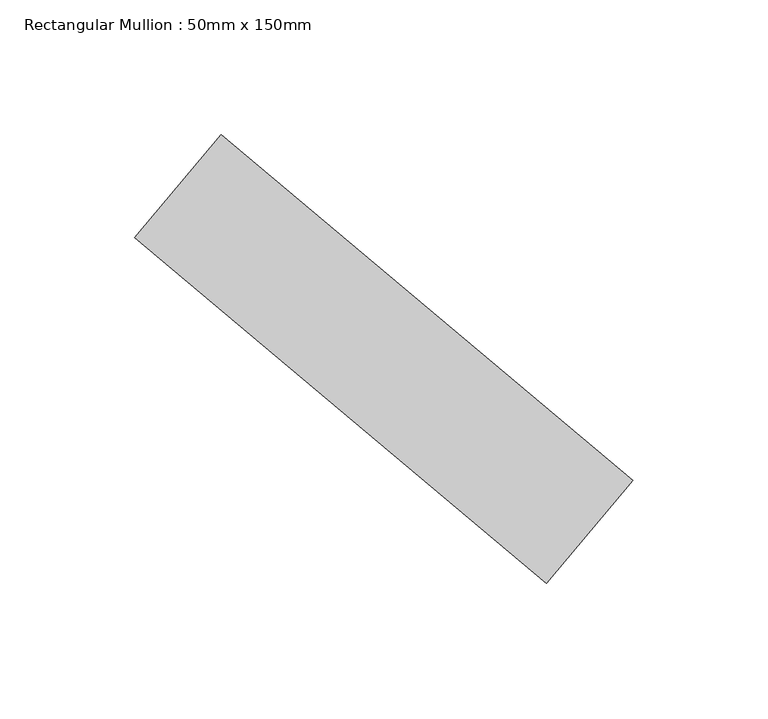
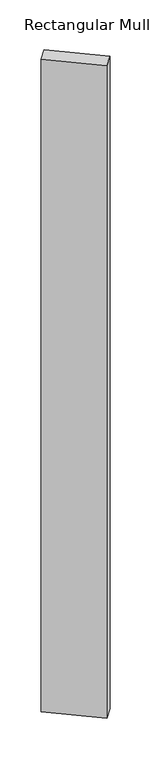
"""IFC4 building model written with IfcOpenShell, lengths in millimetres: member geometry, Rectangular Mullion : 50mm x 150mm."""

import ifcopenshell
import ifcopenshell.guid

model = None  # the IFC model being written
_history = None  # IfcOwnerHistory: only IFC2X3 demands one
_inside = {}  # id of a spatial element -> (the spatial element, [elements in it])
_under = {}  # id of a project, library or spatial element -> (it, [spatial elements below it])
_declared = {}  # id of a project -> (the project, [libraries it declares])
_typed = {}  # id of a type object -> (the type object, [elements of that type])
_made_of = {}  # id of a material, layer set ... -> (it, [elements and type objects made of it])


def new_model(schema):
    """Start an empty IFC model of exactly this schema.

    Asked for "IFC4X3", IfcOpenShell would pick the latest addendum, in which some entities
    have other attributes; the version numbers below select the first issue.
    IFC2X3 requires an IfcOwnerHistory on every rooted entity: one is made here for all.
    """
    global model, _history
    if schema == "IFC4X3":
        model = ifcopenshell.file(schema_version=(4, 3, 0, 0))
    else:
        model = ifcopenshell.file(schema=schema)
    _inside.clear()
    _under.clear()
    _declared.clear()
    _typed.clear()
    _made_of.clear()
    _history = None
    if model.schema == "IFC2X3":
        org = make("IfcOrganization", Name="unknown")
        user = make(
            "IfcPersonAndOrganization",
            ThePerson=make("IfcPerson", FamilyName="unknown"),
            TheOrganization=org,
        )
        app = make(
            "IfcApplication",
            ApplicationDeveloper=org,
            Version="unknown",
            ApplicationFullName="unknown",
            ApplicationIdentifier="unknown",
        )
        _history = make(
            "IfcOwnerHistory",
            OwningUser=user,
            OwningApplication=app,
            ChangeAction="ADDED",
            CreationDate=0,
        )
    return model


def make(cls, **values):
    """One entity of the class cls with the attributes given. An attribute that is None is left unset."""
    return model.create_entity(
        cls, **{name: value for name, value in values.items() if value is not None}
    )


def rooted(cls, **values):
    """An entity with a GlobalId (a new one), such as an element, a storey or a relation."""
    return make(cls, GlobalId=ifcopenshell.guid.new(), OwnerHistory=_history, **values)


def si_unit(unit_type, name, prefix=None):
    """IfcSIUnit, for example si_unit("LENGTHUNIT", "METRE", prefix="MILLI")."""
    return make("IfcSIUnit", UnitType=unit_type, Prefix=prefix, Name=name)


def assignment(units):
    """IfcUnitAssignment: the units of a project."""
    return None if units is None else make("IfcUnitAssignment", Units=units)


def point(xyz):
    """IfcCartesianPoint."""
    return None if xyz is None else make("IfcCartesianPoint", Coordinates=xyz)


def direction(xyz):
    """IfcDirection."""
    return None if xyz is None else make("IfcDirection", DirectionRatios=xyz)


def frame(location, z_axis=None, x_axis=None):
    """IfcAxis2Placement3D, a coordinate frame: its origin and axes. An axis left out is left unset."""
    return make(
        "IfcAxis2Placement3D",
        Location=point(location),
        Axis=direction(z_axis),
        RefDirection=direction(x_axis),
    )


def origin():
    """The frame at (0, 0, 0) with its axes left unset."""
    return frame((0.0, 0.0, 0.0))


def place(relative_to, where):
    """IfcLocalPlacement: puts the frame where relative to a parent placement (None: the world)."""
    return make(
        "IfcLocalPlacement", PlacementRelTo=relative_to, RelativePlacement=where
    )


def context(
    kind, dimensions, precision=None, world=None, true_north=None, identifier=None
):
    """IfcGeometricRepresentationContext, for example the 3D "Model" context."""
    return make(
        "IfcGeometricRepresentationContext",
        ContextIdentifier=identifier,
        ContextType=kind,
        CoordinateSpaceDimension=dimensions,
        Precision=precision,
        WorldCoordinateSystem=world,
        TrueNorth=true_north,
    )


def project(units=None, contexts=None):
    """IfcProject with its units and contexts."""
    return rooted(
        "IfcProject",
        Name="project",
        RepresentationContexts=contexts,
        UnitsInContext=assignment(units),
    )


def spatial(cls, under=None, at=None, **own):
    """A site, building, storey or space (cls), placed at a placement, below another one or the project."""
    s = rooted(cls, ObjectPlacement=at, **own)
    if under is not None:
        _under.setdefault(under.id(), (under, []))[1].append(s)
    return s


def polyline(points):
    """IfcPolyline through the points."""
    return make("IfcPolyline", Points=[point(p) for p in points])


def outline(outer, holes=None, kind="AREA"):
    """IfcArbitraryClosedProfileDef: a profile drawn as a closed curve; with holes, ...WithVoids."""
    if holes is None:
        return make("IfcArbitraryClosedProfileDef", ProfileType=kind, OuterCurve=outer)
    return make(
        "IfcArbitraryProfileDefWithVoids",
        ProfileType=kind,
        OuterCurve=outer,
        InnerCurves=holes,
    )


def extrude(swept, where, along, depth):
    """IfcExtrudedAreaSolid: the profile swept, set in the frame where, extruded along a direction by depth."""
    return make(
        "IfcExtrudedAreaSolid",
        SweptArea=swept,
        Position=where,
        ExtrudedDirection=direction(along),
        Depth=depth,
    )


def shape(context_of_items, identifier, shape_type, items):
    """IfcShapeRepresentation: the items that make up one representation, for example the "Body"."""
    return make(
        "IfcShapeRepresentation",
        ContextOfItems=context_of_items,
        RepresentationIdentifier=identifier,
        RepresentationType=shape_type,
        Items=items,
    )


def source(mapping_origin, context_of_items, identifier, shape_type, items):
    """IfcRepresentationMap: a shape defined once, which mapped items show again and again."""
    return make(
        "IfcRepresentationMap",
        MappingOrigin=mapping_origin,
        MappedRepresentation=shape(context_of_items, identifier, shape_type, items),
    )


def transform(
    local_origin,
    x_axis=None,
    y_axis=None,
    z_axis=None,
    scale=None,
    scale2=None,
    scale3=None,
    uniform=True,
):
    """IfcCartesianTransformationOperator3D, or its non-uniform kind. x_axis, y_axis, z_axis: its Axis1, 2, 3."""
    if uniform:
        return make(
            "IfcCartesianTransformationOperator3D",
            Axis1=direction(x_axis),
            Axis2=direction(y_axis),
            LocalOrigin=point(local_origin),
            Scale=scale,
            Axis3=direction(z_axis),
        )
    return make(
        "IfcCartesianTransformationOperator3DnonUniform",
        Axis1=direction(x_axis),
        Axis2=direction(y_axis),
        LocalOrigin=point(local_origin),
        Scale=scale,
        Axis3=direction(z_axis),
        Scale2=scale2,
        Scale3=scale3,
    )


def mapped(mapping_source, mapping_target):
    """IfcMappedItem: shows the shape of a source again, moved by a transform."""
    return make(
        "IfcMappedItem", MappingSource=mapping_source, MappingTarget=mapping_target
    )


def made_of(thing, what):
    """Note that an element or type object is made of a material, layer set ...; save() writes the relation."""
    if what is not None:
        _made_of.setdefault(what.id(), (what, []))[1].append(thing)
    return thing


def element(
    cls,
    number,
    at=None,
    inside=None,
    cuts=None,
    type_object=None,
    material=None,
    context=None,
    identifier="Body",
    shape_type=None,
    held_by="IfcProductDefinitionShape",
    body=None,
    shapes=None,
    **own,
):
    """One element of the class cls, such as IfcWall. Its Tag is "e" and its number.

    at: its placement. inside: the storey or other place that contains it. cuts: it is an
    opening in that element (IfcRelVoidsElement). A single representation is given by context,
    identifier, shape_type and body (its items); several are given by shapes. held_by: the class
    of the entity that holds the representations. save() writes the other relations.
    """
    e = rooted(cls, Tag="e%d" % number, ObjectPlacement=at, **own)
    if body is not None:
        shapes = [shape(context, identifier, shape_type, body)]
    if shapes is not None:
        e.Representation = make(held_by, Representations=shapes)
    if inside is not None:
        _inside.setdefault(inside.id(), (inside, []))[1].append(e)
    if cuts is not None:
        rooted(
            "IfcRelVoidsElement", RelatingBuildingElement=cuts, RelatedOpeningElement=e
        )
    if type_object is not None:
        _typed.setdefault(type_object.id(), (type_object, []))[1].append(e)
    return made_of(e, material)


def aggregate(whole, parts):
    """IfcRelAggregates: a whole, such as a stair, and the parts it consists of."""
    return rooted("IfcRelAggregates", RelatingObject=whole, RelatedObjects=parts)


def save(model, path):
    """Write the relations noted so far, then the file.

    IfcRelAggregates (storeys below a building ...), IfcRelContainedInSpatialStructure (elements
    in a storey), IfcRelDefinesByType, IfcRelAssociatesMaterial and IfcRelDeclares: one each for
    every whole, place, type object, material and project.
    """
    for whole, parts in _under.values():
        aggregate(whole, parts)
    for where, things in _inside.values():
        rooted(
            "IfcRelContainedInSpatialStructure",
            RelatedElements=things,
            RelatingStructure=where,
        )
    for kind, things in _typed.values():
        rooted("IfcRelDefinesByType", RelatedObjects=things, RelatingType=kind)
    for what, things in _made_of.values():
        rooted("IfcRelAssociatesMaterial", RelatedObjects=things, RelatingMaterial=what)
    for by, libraries in _declared.values():
        rooted("IfcRelDeclares", RelatingContext=by, RelatedDefinitions=libraries)
    model.write(path)


def rectangular_mullion_50mm_x_150mm_84331088(model_context):
    return source(origin(), model_context, "Body", "SweptSolid", [
        extrude(outline(polyline([(-99.4278497, 83.429872), (53.7810389, -45.1276499), (21.6416584, -83.429872), (-131.5672302, 45.1276499), (-99.4278497, 83.429872)])), frame((0.0, 0.0, -2380.0), z_axis=(0.0, 0.0, 1.0), x_axis=(1.0, 0.0, 0.0)), (0.0, 0.0, 1.0), 2380.0),
    ])


if __name__ == "__main__":
    model = new_model("IFC4")
    model_context = context("Model", 3, world=origin())
    ifc_project = project(units=[si_unit("LENGTHUNIT", "METRE", prefix="MILLI")], contexts=[model_context])
    site = spatial("IfcSite", under=ifc_project)
    building = spatial("IfcBuilding", under=site)
    placement = place(None, origin())
    rectangular_mullion_50mm_x_150mm_shape = rectangular_mullion_50mm_x_150mm_84331088(model_context)
    element("IfcMember", 1, ObjectType="Rectangular Mullion : 50mm x 150mm", at=placement, inside=building, context=model_context, shape_type="MappedRepresentation", body=[
        mapped(rectangular_mullion_50mm_x_150mm_shape, transform((0.0, 0.0, 0.0), x_axis=(1.0, 0.0, 0.0), y_axis=(0.0, 1.0, 0.0), z_axis=(0.0, 0.0, 1.0))),
    ])
    save(model, "model.ifc")
